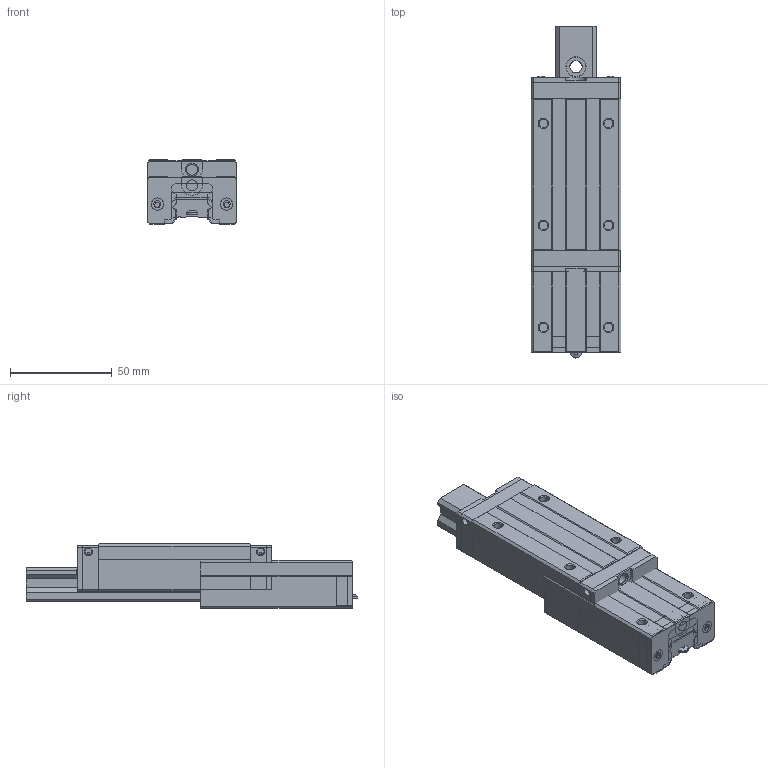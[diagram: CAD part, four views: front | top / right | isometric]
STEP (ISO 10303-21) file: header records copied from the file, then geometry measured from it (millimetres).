
FILE_DESCRIPTION( ( 'Unknown' ), '1' );
FILE_NAME( 'C:/Documents and Settings/USER/官帕 拳搁/沥脚 粱 瞒妨扼/20/SBI 20 CLL.stp', 'Unknown', ( 'Unknown' ), ( 'Unknown' ), 'XStep 1.0', 'Unknown', ' ' );
FILE_SCHEMA( ( 'automotive_design' ) );
Length unit declared in the file: millimetre
Products named in the file (6): Assem1; RAIL; EP; ES; M3(5.5-2); CLL
Bounding box: 44 x 162.75 x 31.45 mm (x, y, z)
Volume: 212040.7 mm3; surface area: 69925.5 mm2
Topology: 15 solids, 15 shells, 528 faces, 1349 edges, 885 vertices
Faces by surface type: plane 367, cylinder 120, cone 26, torus 10, bspline 5
Full cylindrical faces by diameter (mm): 1 x6, 2.459 x8, 3.4 x12, 3.5 x6, 4.134 x16, 5.333 x3, 5.5 x5, 6 x12, 6.4 x3, 9.5 x6
Entity records: 6370 total; most frequent: CARTESIAN_POINT 1101, DIRECTION 994, ORIENTED_EDGE 936, EDGE_CURVE 468, LINE 340, VECTOR 340, VERTEX_POINT 330, AXIS2_PLACEMENT_3D 327
